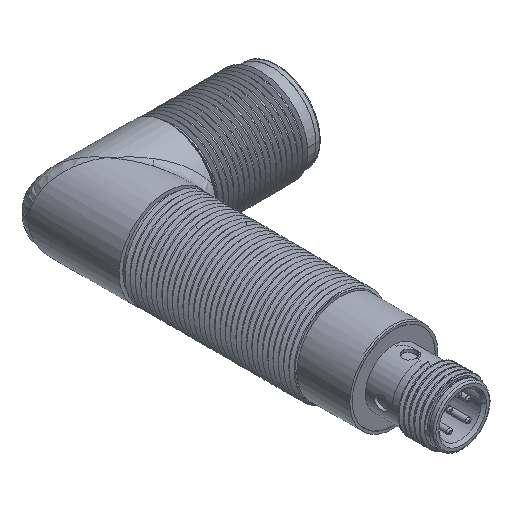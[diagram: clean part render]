
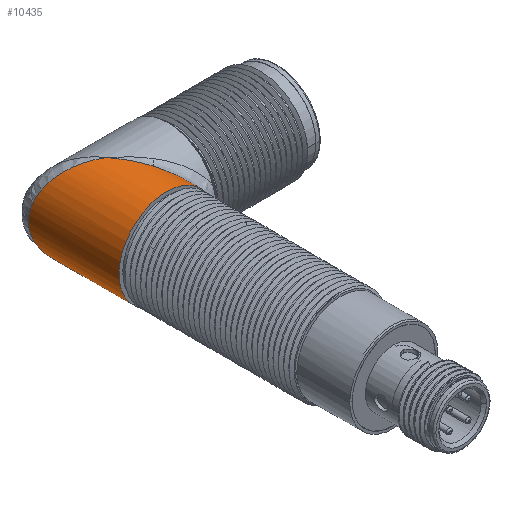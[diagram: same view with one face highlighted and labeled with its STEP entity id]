
A CAD part, isometric view. The second image highlights one B-rep face of the part: STEP entity #10435.
In plain terms, the highlighted cylindrical face has radius 9 mm (diameter 18 mm), a partial arc.
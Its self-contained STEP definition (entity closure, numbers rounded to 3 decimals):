
#1139=CARTESIAN_POINT('',(3.75,65.,-8.182));
#1140=CARTESIAN_POINT('',(4.124,64.504,-8.01));
#1141=CARTESIAN_POINT('',(4.795,63.605,-7.642));
#1142=CARTESIAN_POINT('',(5.604,62.53,-7.06));
#1143=CARTESIAN_POINT('',(6.177,61.757,-6.56));
#1144=CARTESIAN_POINT('',(6.854,60.871,-5.874));
#1145=CARTESIAN_POINT('',(7.618,59.848,-4.841));
#1146=CARTESIAN_POINT('',(8.081,59.226,-3.99));
#1147=CARTESIAN_POINT('',(8.279,58.952,-3.536));
#1148=CARTESIAN_POINT('',(8.355,58.86,-3.346));
#1166=CARTESIAN_POINT('',(3.75,65.,-8.182));
#1167=CARTESIAN_POINT('',(3.357,65.519,-8.362));
#1168=CARTESIAN_POINT('',(2.547,66.582,-8.662));
#1169=CARTESIAN_POINT('',(1.344,68.252,-8.929));
#1170=CARTESIAN_POINT('',(0.454,69.409,
-9.));
#1171=CARTESIAN_POINT('',(0.,70.,-9.));
#1173=CARTESIAN_POINT('',(0.,70.,-9.));
#1174=CARTESIAN_POINT('',(-0.612,70.412,-9.));
#1175=CARTESIAN_POINT('',(-1.809,71.204,
-8.873));
#1176=CARTESIAN_POINT('',(-3.431,72.287,
-8.377));
#1177=CARTESIAN_POINT('',(-4.921,73.281,
-7.597));
#1178=CARTESIAN_POINT('',(-6.305,74.203,
-6.517));
#1179=CARTESIAN_POINT('',(-7.548,75.03,
-5.01));
#1180=CARTESIAN_POINT('',(-8.254,75.504,
-3.664));
#1181=CARTESIAN_POINT('',(-8.711,75.808,
-2.419));
#1182=CARTESIAN_POINT('',(-9.007,76.002,
-0.833));
#1183=CARTESIAN_POINT('',(-9.02,76.015,
0.659));
#1184=CARTESIAN_POINT('',(-8.763,75.84,2.196));
#1185=CARTESIAN_POINT('',(-8.411,75.61,3.26));
#1186=CARTESIAN_POINT('',(-7.897,75.266,4.395));
#1187=CARTESIAN_POINT('',(-7.032,74.684,5.698));
#1188=CARTESIAN_POINT('',(-5.893,73.931,6.858));
#1189=CARTESIAN_POINT('',(-4.75,73.166,7.689));
#1190=CARTESIAN_POINT('',(-3.394,72.263,8.386));
#1191=CARTESIAN_POINT('',(-1.805,71.202,8.873));
#1192=CARTESIAN_POINT('',(-0.617,70.415,9.));
#1193=CARTESIAN_POINT('',(0.,70.,9.));
#1195=CARTESIAN_POINT('',(0.,70.,9.));
#1196=CARTESIAN_POINT('',(0.454,69.409,9.));
#1197=CARTESIAN_POINT('',(1.344,68.251,8.929));
#1198=CARTESIAN_POINT('',(2.548,66.581,8.662));
#1199=CARTESIAN_POINT('',(3.358,65.519,8.361));
#1200=CARTESIAN_POINT('',(3.75,65.,8.182));
#1202=CARTESIAN_POINT('',(3.75,65.,8.182));
#1203=CARTESIAN_POINT('',(4.528,63.963,7.825));
#1204=CARTESIAN_POINT('',(5.618,62.51,7.122));
#1205=CARTESIAN_POINT('',(6.83,60.894,5.907));
#1206=CARTESIAN_POINT('',(7.601,59.867,4.877));
#1207=CARTESIAN_POINT('',(8.079,59.231,3.999));
#1208=CARTESIAN_POINT('',(8.303,58.93,3.477));
#1209=CARTESIAN_POINT('',(8.355,58.86,3.346));
#1211=CARTESIAN_POINT('',(0.,58.86,0.));
#1212=DIRECTION('',(0.,1.,0.));
#1213=DIRECTION('',(0.928,0.,-0.372));
#1214=AXIS2_PLACEMENT_3D('',#1211,#1212,#1213);
#1216=CARTESIAN_POINT('',(0.,58.86,0.));
#1217=DIRECTION('',(0.,1.,0.));
#1218=DIRECTION('',(0.,0.,-1.));
#1219=AXIS2_PLACEMENT_3D('',#1216,#1217,#1218);
#1221=CARTESIAN_POINT('',(0.,58.86,0.));
#1222=DIRECTION('',(0.,1.,0.));
#1223=DIRECTION('',(-0.928,0.,0.372));
#1224=AXIS2_PLACEMENT_3D('',#1221,#1222,#1223);
#1226=CARTESIAN_POINT('',(0.,58.86,0.));
#1227=DIRECTION('',(0.,1.,0.));
#1228=DIRECTION('',(0.,0.,1.));
#1229=AXIS2_PLACEMENT_3D('',#1226,#1227,#1228);
#7880=CARTESIAN_POINT('',(8.355,58.86,-3.346));
#7881=CARTESIAN_POINT('',(0.,58.86,-9.));
#7882=VERTEX_POINT('',#7880);
#7883=VERTEX_POINT('',#7881);
#7884=CARTESIAN_POINT('',(-8.355,58.86,3.346));
#7885=VERTEX_POINT('',#7884);
#7886=CARTESIAN_POINT('',(0.,58.86,9.));
#7887=VERTEX_POINT('',#7886);
#7888=CARTESIAN_POINT('',(8.355,58.86,3.346));
#7889=VERTEX_POINT('',#7888);
#7890=VERTEX_POINT('',#1139);
#7891=VERTEX_POINT('',#1171);
#7892=VERTEX_POINT('',#1193);
#7893=VERTEX_POINT('',#1200);
#10413=CARTESIAN_POINT('',(0.,0.,0.));
#10414=DIRECTION('',(0.,1.,0.));
#10415=DIRECTION('',(0.,0.,1.));
#10416=AXIS2_PLACEMENT_3D('',#10413,#10414,#10415);
#10417=CYLINDRICAL_SURFACE('',#10416,9.);
#10419=ORIENTED_EDGE('',*,*,#10418,.F.);
#10421=ORIENTED_EDGE('',*,*,#10420,.F.);
#10423=ORIENTED_EDGE('',*,*,#10422,.F.);
#10425=ORIENTED_EDGE('',*,*,#10424,.F.);
#10426=ORIENTED_EDGE('',*,*,#10368,.F.);
#10427=ORIENTED_EDGE('',*,*,#10408,.T.);
#10429=ORIENTED_EDGE('',*,*,#10428,.T.);
#10431=ORIENTED_EDGE('',*,*,#10430,.T.);
#10432=ORIENTED_EDGE('',*,*,#10372,.T.);
#10433=EDGE_LOOP('',(#10419,#10421,#10423,#10425,#10426,#10427,#10429,#10431,
#10432));
#10434=FACE_OUTER_BOUND('',#10433,.F.);
#1149=B_SPLINE_CURVE_WITH_KNOTS('',3,(#1139,#1140,#1141,#1142,#1143,#1144,#1145,
#1146,#1147,#1148),.UNSPECIFIED.,.F.,.F.,(4,1,1,1,1,1,1,4),(0.,
0.143,0.286,0.429,0.571,
0.714,0.857,1.),.UNSPECIFIED.);
#1172=B_SPLINE_CURVE_WITH_KNOTS('',3,(#1166,#1167,#1168,#1169,#1170,#1171),
.UNSPECIFIED.,.F.,.F.,(4,1,1,4),(0.,0.333,0.667,1.),
.UNSPECIFIED.);
#1194=B_SPLINE_CURVE_WITH_KNOTS('',3,(#1173,#1174,#1175,#1176,#1177,#1178,#1179,
#1180,#1181,#1182,#1183,#1184,#1185,#1186,#1187,#1188,#1189,#1190,#1191,#1192,
#1193),.UNSPECIFIED.,.F.,.F.,(4,1,1,1,1,1,1,1,1,1,1,1,1,1,1,1,1,1,4),(0.,
0.056,0.111,0.167,0.222,
0.278,0.333,0.389,0.444,0.5,
0.556,0.611,0.667,0.722,
0.778,0.833,0.889,0.944,1.),
.UNSPECIFIED.);
#1201=B_SPLINE_CURVE_WITH_KNOTS('',3,(#1195,#1196,#1197,#1198,#1199,#1200),
.UNSPECIFIED.,.F.,.F.,(4,1,1,4),(0.,0.333,0.667,1.),
.UNSPECIFIED.);
#1210=B_SPLINE_CURVE_WITH_KNOTS('',3,(#1202,#1203,#1204,#1205,#1206,#1207,#1208,
#1209),.UNSPECIFIED.,.F.,.F.,(4,1,1,1,1,4),(0.,0.375,
0.563,0.751,0.938,1.),.UNSPECIFIED.);
#1215=CIRCLE('',#1214,9.);
#1220=CIRCLE('',#1219,9.);
#1225=CIRCLE('',#1224,9.);
#1230=CIRCLE('',#1229,9.);
#10368=EDGE_CURVE('',#7890,#7882,#1149,.T.);
#10372=EDGE_CURVE('',#7893,#7889,#1210,.T.);
#10408=EDGE_CURVE('',#7890,#7891,#1172,.T.);
#10418=EDGE_CURVE('',#7887,#7889,#1230,.T.);
#10420=EDGE_CURVE('',#7885,#7887,#1225,.T.);
#10422=EDGE_CURVE('',#7883,#7885,#1220,.T.);
#10424=EDGE_CURVE('',#7882,#7883,#1215,.T.);
#10428=EDGE_CURVE('',#7891,#7892,#1194,.T.);
#10430=EDGE_CURVE('',#7892,#7893,#1201,.T.);
#10435=ADVANCED_FACE('',(#10434),#10417,.T.);
